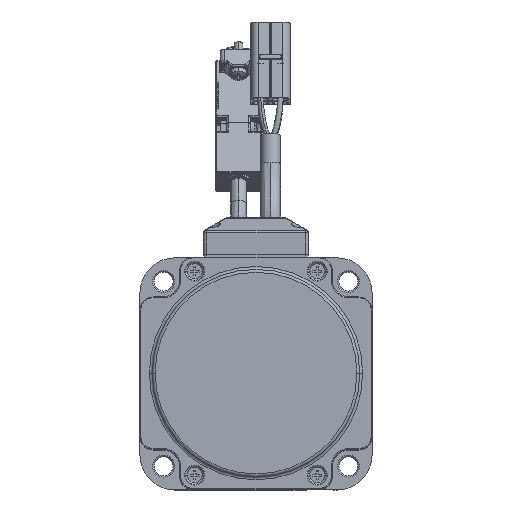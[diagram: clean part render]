
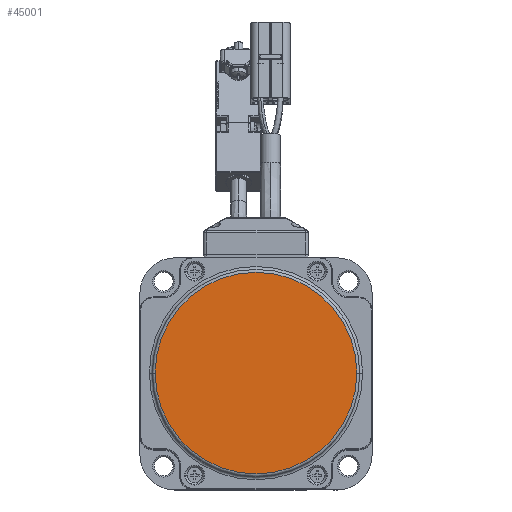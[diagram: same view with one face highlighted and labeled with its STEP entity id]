
A CAD part, top view. The second image highlights one B-rep face of the part: STEP entity #45001.
In plain terms, the highlighted planar face has unit normal (0, 0, 1).
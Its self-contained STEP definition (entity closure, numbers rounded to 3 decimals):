
#9681 = AXIS2_PLACEMENT_3D ( 'NONE', #12201, #12202, #12203 ) ;
#12200 = PLANE ( 'NONE',  #9681 ) ;
#12201 = CARTESIAN_POINT ( 'NONE',  ( 0., 0., 6.5 ) ) ;
#12202 = DIRECTION ( 'NONE',  ( 0., 0., 1. ) ) ;
#12203 = DIRECTION ( 'NONE',  ( 1., 0., 0. ) ) ;
#13317 = FACE_OUTER_BOUND ( 'NONE', #31451, .T. ) ;
#28235 = VERTEX_POINT ( 'NONE', #64083 ) ;
#28296 = VERTEX_POINT ( 'NONE', #64144 ) ;
#30086 = CIRCLE ( 'NONE', #30087, 34.75 ) ;
#30087 = AXIS2_PLACEMENT_3D ( 'NONE', #32274, #32275, #32276 ) ;
#30460 = CIRCLE ( 'NONE', #30465, 34.75 ) ;
#30465 = AXIS2_PLACEMENT_3D ( 'NONE', #36399, #36401, #36402 ) ;
#31451 = EDGE_LOOP ( 'NONE', ( #64887, #64895 ) ) ;
#32274 = CARTESIAN_POINT ( 'NONE',  ( 0., 0., 6.5 ) ) ;
#32275 = DIRECTION ( 'NONE',  ( 0., 0., 1. ) ) ;
#32276 = DIRECTION ( 'NONE',  ( 1., 0., 0. ) ) ;
#36399 = CARTESIAN_POINT ( 'NONE',  ( 0., 0., 6.5 ) ) ;
#36401 = DIRECTION ( 'NONE',  ( 0., 0., 1. ) ) ;
#36402 = DIRECTION ( 'NONE',  ( 1., 0., 0. ) ) ;
#45001 = ADVANCED_FACE ( 'NONE', ( #13317 ), #12200, .T. ) ;
#47723 = EDGE_CURVE ( 'NONE', #28296, #28235, #30086, .T. ) ;
#56542 = EDGE_CURVE ( 'NONE', #28235, #28296, #30460, .T. ) ;
#64083 = CARTESIAN_POINT ( 'NONE',  ( -34.75, 0., 6.5 ) ) ;
#64144 = CARTESIAN_POINT ( 'NONE',  ( 34.75, 0., 6.5 ) ) ;
#64887 = ORIENTED_EDGE ( 'NONE', *, *, #47723, .T. ) ;
#64895 = ORIENTED_EDGE ( 'NONE', *, *, #56542, .T. ) ;
